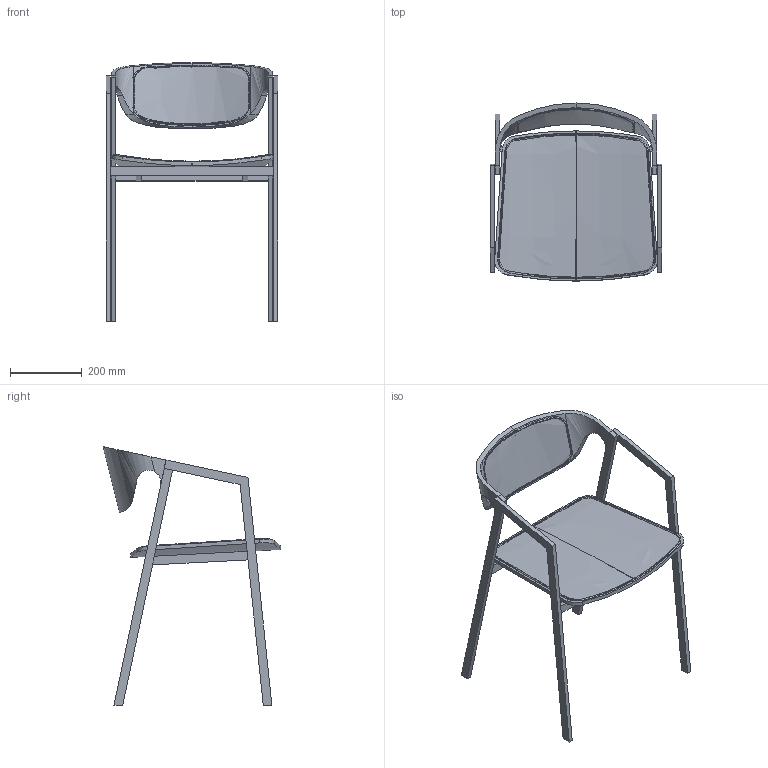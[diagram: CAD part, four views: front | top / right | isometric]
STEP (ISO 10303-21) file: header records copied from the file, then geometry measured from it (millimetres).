
FILE_DESCRIPTION(/* description */ (''),/* implementation_level */ '2;1');
FILE_NAME(/* name */ 'S.A.C. Dining chair W:leather',/* time_stamp */ '2020-02-18T09:41:30+01:00',/* author */ (''),/* organization */ (''),/* preprocessor_version */ 'ST-DEVELOPER v15',/* originating_system */ '',/* authorisation */ '');
FILE_SCHEMA (('AUTOMOTIVE_DESIGN'));
Length unit declared in the file: millimetre
Products named in the file (1): Document
Bounding box: 480 x 496.95 x 722.17 mm (x, y, z)
Volume: 4230129.4 mm3; surface area: 1378939.6 mm2
Topology: 24 solids, 29 shells, 178 faces, 422 edges, 258 vertices
Faces by surface type: bspline 102, plane 76
Entity records: 12950 total; most frequent: CARTESIAN_POINT 10228, ORIENTED_EDGE 740, EDGE_CURVE 381, VERTEX_POINT 256, B_SPLINE_CURVE_WITH_KNOTS 225, ADVANCED_FACE 178, FACE_OUTER_BOUND 178, EDGE_LOOP 178
